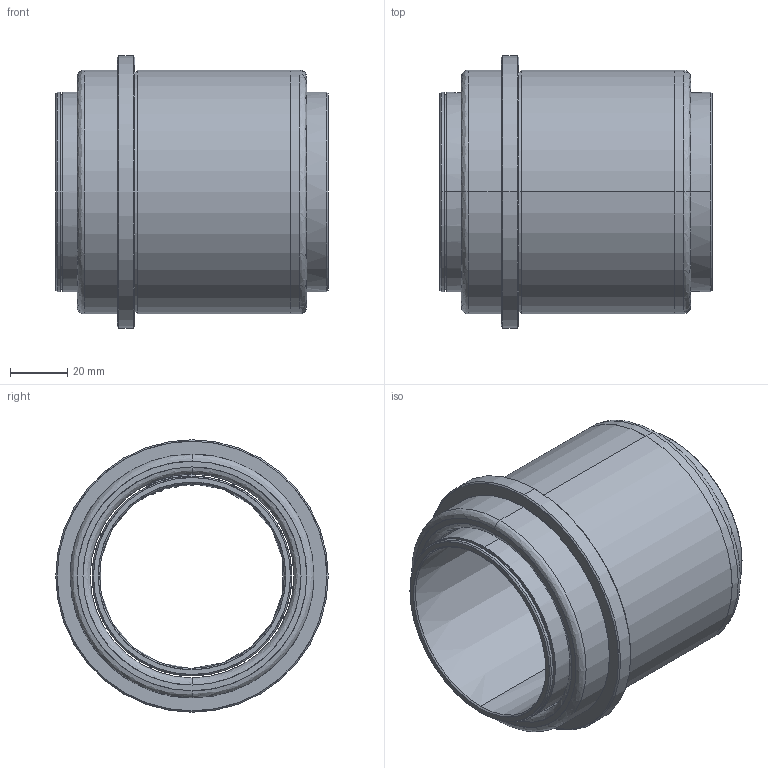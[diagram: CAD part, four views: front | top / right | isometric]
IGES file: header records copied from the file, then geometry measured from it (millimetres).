
Start section: START RECORD GO HERE.
Global section: file name: 732-63.igs; native system: DASSAULT SYSTEMES CATIA V5 R20 - www.3ds.com; preprocessor: CATIA Version 5 Release 20 ; author: Utente; organization: NB04-ASUS; date: 20210110.201625; units: millimetre
Bounding box: 95 x 95 x 95 mm (x, y, z)
Surface area: 85998.4 mm2 (no closed solid volume)
Topology: 0 solids, 0 shells, 74 faces, 434 edges, 434 vertices
Faces by surface type: revolution 64, plane 10
